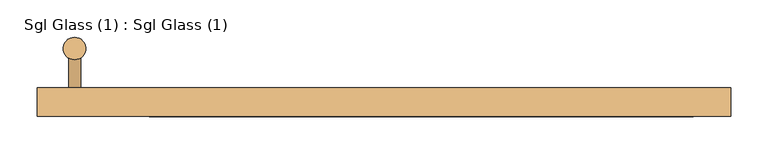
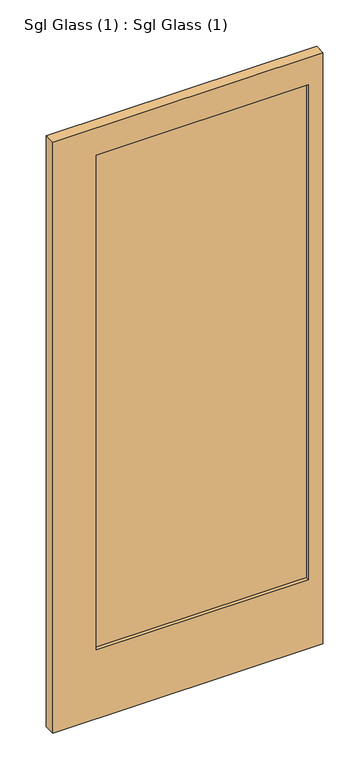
"""IFC4 building model written with IfcOpenShell, lengths in millimetres: door geometry, Sgl Glass (1) : Sgl Glass (1)."""

from ifc_helpers import new_model, si_unit, point, frame, frame_2d, origin, place, context, project, spatial, polyline, circle_curve, trimmed, segment, composite_curve, outline, extrude, source, transform, mapped, element, save


def sgl_glass_1_sgl_glass_1_9855223e(model_context):
    return source(origin(), model_context, "Body", "SweptSolid", [
        extrude(outline(polyline([(415.0, -2.0), (415.0, -12.0), (-390.0, -12.0), (-390.0, -2.0), (415.0, -2.0)])), frame((0.0, 0.0, 250.0), z_axis=(0.0, 0.0, 1.0), x_axis=(1.0, 0.0, 0.0)), (0.0, 0.0, 1.0), 1800.0),
        extrude(outline(composite_curve([segment(trimmed(circle_curve(frame_2d((-415.0, 66.0)), 15.0), [point((-415.0, 51.0))], [point((-415.0, 81.0))], False, "CARTESIAN"), True, "CONTINUOUS"), segment(trimmed(circle_curve(frame_2d((-415.0, 66.0)), 15.0), [point((-415.0, 81.0))], [point((-415.0, 51.0))], False, "CARTESIAN"), True, "CONTINUOUS")], self_intersect=False)), frame((0.0, 0.0, 650.0), z_axis=(0.0, 0.0, 1.0), x_axis=(1.0, 0.0, 0.0)), (0.0, 0.0, 1.0), 900.0),
        extrude(outline(composite_curve([segment(trimmed(circle_curve(frame_2d((750.0, -415.0)), 8.0), [point((750.0, -407.0))], [point((750.0, -423.0))], False, "CARTESIAN"), True, "CONTINUOUS"), segment(trimmed(circle_curve(frame_2d((750.0, -415.0)), 8.0), [point((750.0, -423.0))], [point((750.0, -407.0))], False, "CARTESIAN"), True, "CONTINUOUS")], self_intersect=False)), frame((0.0, 13.0, 0.0), z_axis=(0.0, 1.0, 0.0), x_axis=(0.0, 0.0, 1.0)), (0.0, 0.0, 1.0), 53.0),
        extrude(outline(composite_curve([segment(trimmed(circle_curve(frame_2d((1450.0, -415.0)), 8.0), [point((1450.0, -407.0))], [point((1450.0, -423.0))], False, "CARTESIAN"), True, "CONTINUOUS"), segment(trimmed(circle_curve(frame_2d((1450.0, -415.0)), 8.0), [point((1450.0, -423.0))], [point((1450.0, -407.0))], False, "CARTESIAN"), True, "CONTINUOUS")], self_intersect=False)), frame((0.0, 13.0, 0.0), z_axis=(0.0, 1.0, 0.0), x_axis=(0.0, 0.0, 1.0)), (0.0, 0.0, 1.0), 53.0),
        extrude(outline(polyline([(0.0, -465.0), (0.0, 465.0), (2150.0, 465.0), (2150.0, -465.0), (0.0, -465.0)]), holes=[polyline([(2050.0, 415.0), (250.0, 415.0), (250.0, -315.0), (2050.0, -315.0), (2050.0, 415.0)])]), frame((0.0, -25.0, 0.0), z_axis=(0.0, 1.0, 0.0), x_axis=(0.0, 0.0, 1.0)), (0.0, 0.0, 1.0), 38.0),
    ])


if __name__ == "__main__":
    model = new_model("IFC4")
    model_context = context("Model", 3, world=origin())
    ifc_project = project(units=[si_unit("LENGTHUNIT", "METRE", prefix="MILLI")], contexts=[model_context])
    site = spatial("IfcSite", under=ifc_project)
    building = spatial("IfcBuilding", under=site)
    placement = place(None, origin())
    sgl_glass_1_sgl_glass_1_shape = sgl_glass_1_sgl_glass_1_9855223e(model_context)
    element("IfcDoor", 1, ObjectType="Sgl Glass (1) : Sgl Glass (1)", at=placement, inside=building, context=model_context, shape_type="MappedRepresentation", body=[
        mapped(sgl_glass_1_sgl_glass_1_shape, transform((0.0, 0.0, 0.0), x_axis=(1.0, 0.0, 0.0), y_axis=(0.0, 1.0, 0.0), z_axis=(0.0, 0.0, 1.0))),
    ])
    save(model, "model.ifc")
